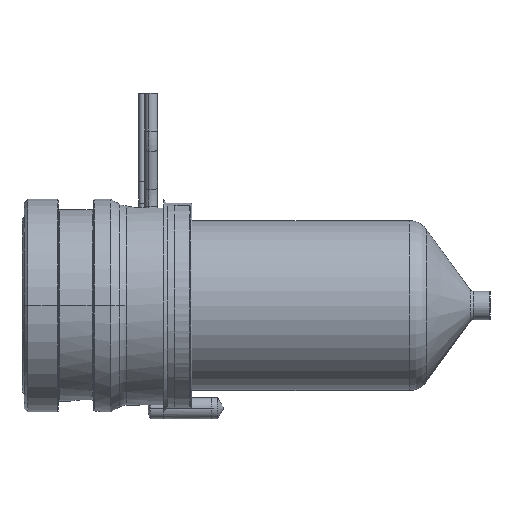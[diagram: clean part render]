
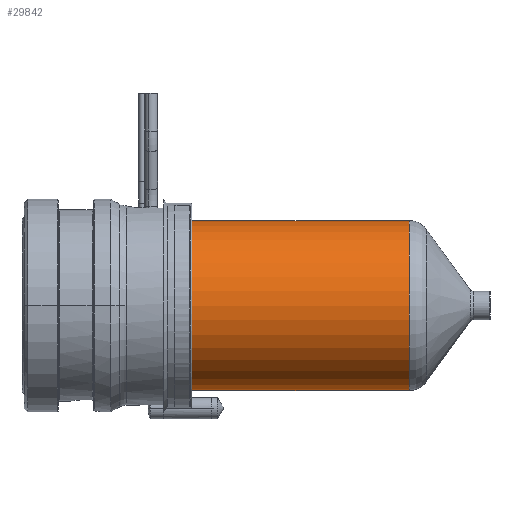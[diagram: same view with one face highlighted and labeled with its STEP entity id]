
A CAD part, left-side view. The second image highlights one B-rep face of the part: STEP entity #29842.
In plain terms, the highlighted cylindrical face has radius 12 mm (diameter 24 mm), a partial arc.
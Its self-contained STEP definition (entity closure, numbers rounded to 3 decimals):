
#29487=CARTESIAN_POINT('',(0.,-24.,0.));
#29488=DIRECTION('',(0.,1.,0.));
#29489=DIRECTION('',(0.,0.,-1.));
#29490=AXIS2_PLACEMENT_3D('',#29487,#29488,#29489);
#29495=DIRECTION('',(0.,1.,0.));
#29496=VECTOR('',#29495,30.671);
#29497=CARTESIAN_POINT('',(0.,-54.671,12.));
#29498=LINE('',#29497,#29496);
#29510=DIRECTION('',(0.,1.,0.));
#29511=VECTOR('',#29510,30.671);
#29512=CARTESIAN_POINT('',(0.,-54.671,-12.));
#29513=LINE('',#29512,#29511);
#29541=CARTESIAN_POINT('',(0.,-54.671,0.));
#29542=DIRECTION('',(0.,-1.,0.));
#29543=DIRECTION('',(0.,0.,1.));
#29544=AXIS2_PLACEMENT_3D('',#29541,#29542,#29543);
#29731=CARTESIAN_POINT('',(0.,-54.671,12.));
#29732=CARTESIAN_POINT('',(0.,-24.,12.));
#29733=VERTEX_POINT('',#29731);
#29734=VERTEX_POINT('',#29732);
#29739=CARTESIAN_POINT('',(0.,-54.671,-12.));
#29740=CARTESIAN_POINT('',(0.,-24.,-12.));
#29741=VERTEX_POINT('',#29739);
#29742=VERTEX_POINT('',#29740);
#29828=CARTESIAN_POINT('',(0.,-17.7,0.));
#29829=DIRECTION('',(0.,-1.,0.));
#29830=DIRECTION('',(0.,0.,1.));
#29831=AXIS2_PLACEMENT_3D('',#29828,#29829,#29830);
#29832=CYLINDRICAL_SURFACE('',#29831,12.);
#29834=ORIENTED_EDGE('',*,*,#29833,.F.);
#29836=ORIENTED_EDGE('',*,*,#29835,.T.);
#29838=ORIENTED_EDGE('',*,*,#29837,.T.);
#29839=ORIENTED_EDGE('',*,*,#29821,.T.);
#29840=EDGE_LOOP('',(#29834,#29836,#29838,#29839));
#29841=FACE_OUTER_BOUND('',#29840,.F.);
#29842=ADVANCED_FACE('',(#29841),#29832,.T.);
#29491=CIRCLE('',#29490,12.);
#29545=CIRCLE('',#29544,12.);
#29821=EDGE_CURVE('',#29742,#29734,#29491,.T.);
#29833=EDGE_CURVE('',#29733,#29734,#29498,.T.);
#29835=EDGE_CURVE('',#29733,#29741,#29545,.T.);
#29837=EDGE_CURVE('',#29741,#29742,#29513,.T.);
